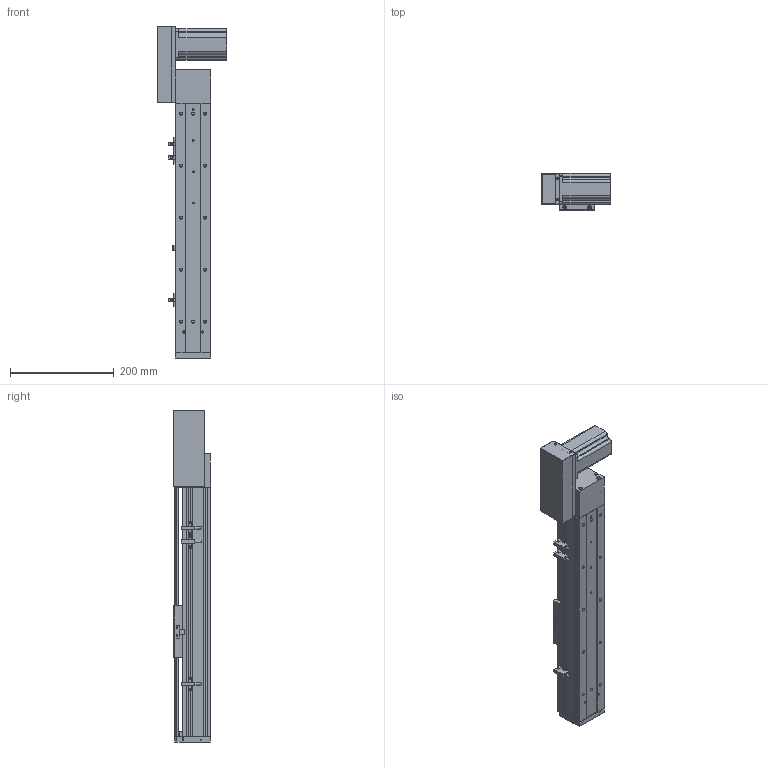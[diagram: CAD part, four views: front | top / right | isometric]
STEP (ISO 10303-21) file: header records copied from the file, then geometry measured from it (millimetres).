
FILE_DESCRIPTION (( 'STEP AP203' ), '1' );
FILE_NAME ('ML68-S300-CR.STEP', '2016-08-04T12:39:47', ( '' ), ( '' ), 'SwSTEP 2.0', 'SolidWorks 2014', '' );
FILE_SCHEMA (( 'CONFIG_CONTROL_DESIGN' ));
Length unit declared in the file: millimetre
Products named in the file (12): ML68傷啣; ML68-S300-CR; ML68雄赽釱; 換覜ん; ML68滅鳥啣盓傅輸; 三协电机MH201N2_預設; ML68-BL傷啣; 60換覜結え; QS68酘衵殏萇儂啣; 葩璃 ML68菁釱^ML68-S300-CR; QS68左右折电机板罩子; ML68奻裔^ML68-S300-CR
Assembly tree (13 placements, depth 2):
  ML68-S300-CR
    葩璃 ML68菁釱^ML68-S300-CR
    ML68奻裔^ML68-S300-CR
    ML68傷啣
    ML68-BL傷啣
    60換覜結え
    換覜ん  x3
    三协电机MH201N2_預設
    ML68雄赽釱
    QS68酘衵殏萇儂啣
    QS68左右折电机板罩子
    ML68滅鳥啣盓傅輸
Bounding box: 133.5 x 70.5 x 638.5 mm (x, y, z)
Volume: 1318292.7 mm3; surface area: 453869.9 mm2
Topology: 13 solids, 13 shells, 869 faces, 2376 edges, 1505 vertices
Faces by surface type: cylinder 392, plane 381, cone 96
Entity records: 27324 total; most frequent: CARTESIAN_POINT 5090, DIRECTION 4494, ORIENTED_EDGE 4252, EDGE_CURVE 2126, AXIS2_PLACEMENT_3D 1617, VERTEX_POINT 1393, VECTOR 1260, LINE 1260
